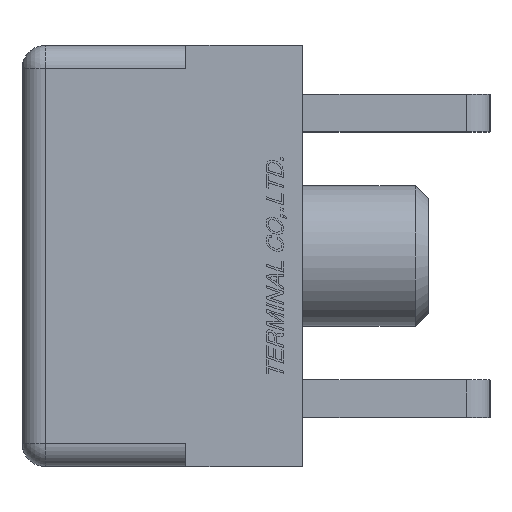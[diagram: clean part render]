
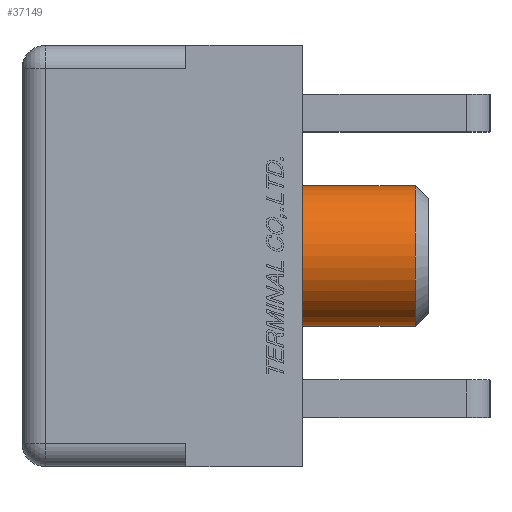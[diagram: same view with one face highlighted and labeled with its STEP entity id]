
A CAD part, left-side view. The second image highlights one B-rep face of the part: STEP entity #37149.
In plain terms, the highlighted cylindrical face has radius 1.5 mm (diameter 3 mm), a full revolution.
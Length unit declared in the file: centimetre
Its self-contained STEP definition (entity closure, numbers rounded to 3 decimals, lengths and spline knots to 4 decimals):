
#11461=VERTEX_POINT('',#46667);
#11462=VERTEX_POINT('',#46669);
#15161=CIRCLE('',#61939,0.15);
#15162=CIRCLE('',#61940,0.15);
#15601=EDGE_CURVE('',#11461,#11461,#15161,.T.);
#15602=EDGE_CURVE('',#11462,#11462,#15162,.T.);
#21220=ORIENTED_EDGE('',*,*,#15602,.F.);
#21221=ORIENTED_EDGE('',*,*,#15601,.F.);
#32355=EDGE_LOOP('',(#21220));
#32356=EDGE_LOOP('',(#21221));
#34753=FACE_BOUND('',#32355,.T.);
#34754=FACE_BOUND('',#32356,.T.);
#37149=ADVANCED_FACE('',(#34753,#34754),#39348,.T.);
#39348=CYLINDRICAL_SURFACE('',#61934,0.15);
#39667=DIRECTION('',(0.,-1.,0.));
#39668=DIRECTION('',(0.15,0.,0.));
#39677=DIRECTION('',(0.,-1.,0.));
#39678=DIRECTION('',(-0.15,0.,0.));
#39679=DIRECTION('',(0.,1.,0.));
#39680=DIRECTION('',(0.15,0.,-0.001));
#46658=CARTESIAN_POINT('',(-0.31,0.3321,0.));
#46666=CARTESIAN_POINT('',(-0.31,-0.2398,0.));
#46667=CARTESIAN_POINT('',(-0.16,-0.2398,0.));
#46668=CARTESIAN_POINT('',(-0.31,0.25,0.));
#46669=CARTESIAN_POINT('',(-0.16,0.25,-0.001));
#61934=AXIS2_PLACEMENT_3D('',#46658,#39667,#39668);
#61939=AXIS2_PLACEMENT_3D('',#46666,#39677,#39678);
#61940=AXIS2_PLACEMENT_3D('',#46668,#39679,#39680);
